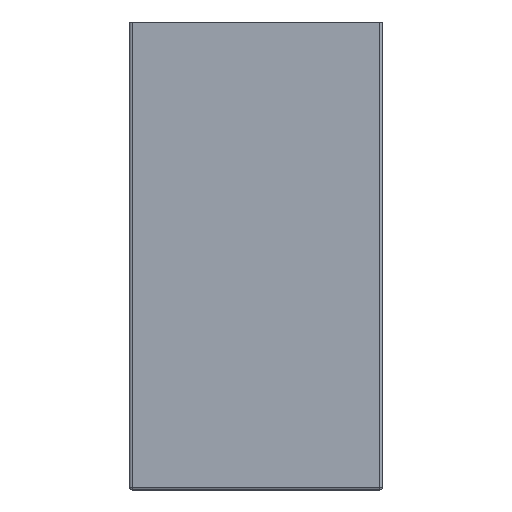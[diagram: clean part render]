
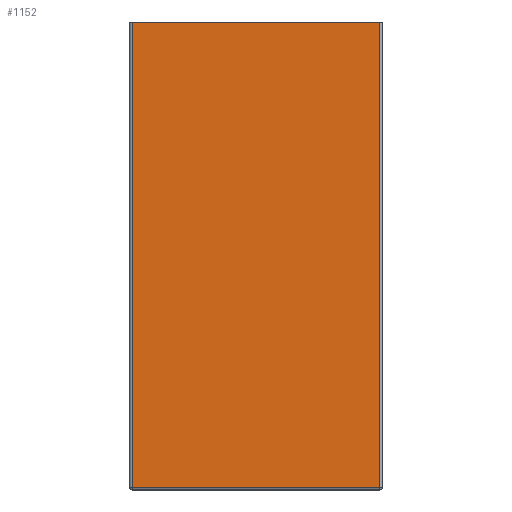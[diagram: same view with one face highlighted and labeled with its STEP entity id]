
A CAD part, left-side view. The second image highlights one B-rep face of the part: STEP entity #1152.
In plain terms, the highlighted planar face has unit normal (-1, 0, 0).
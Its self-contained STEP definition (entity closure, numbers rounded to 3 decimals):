
#1125=AXIS2_PLACEMENT_3D('Plane Axis2P3D',#1122,#1123,#1124) ;
#1025=CARTESIAN_POINT('Line Origine',(-700.,-2.,185.)) ;
#1029=CARTESIAN_POINT('Vertex',(-700.,-2.,2.)) ;
#1031=CARTESIAN_POINT('Vertex',(-700.,-2.,370.)) ;
#1122=CARTESIAN_POINT('Axis2P3D Location',(-700.,0.,0.)) ;
#1127=CARTESIAN_POINT('Line Origine',(-700.,-100.,2.)) ;
#1131=CARTESIAN_POINT('Vertex',(-700.,-198.,2.)) ;
#1134=CARTESIAN_POINT('Line Origine',(-700.,-198.,186.)) ;
#1138=CARTESIAN_POINT('Vertex',(-700.,-198.,370.)) ;
#1141=CARTESIAN_POINT('Line Origine',(-700.,-100.,370.)) ;
#1026=DIRECTION('Vector Direction',(0.,0.,1.)) ;
#1123=DIRECTION('Axis2P3D Direction',(1.,0.,-0.)) ;
#1124=DIRECTION('Axis2P3D XDirection',(0.,0.,1.)) ;
#1128=DIRECTION('Vector Direction',(0.,1.,0.)) ;
#1135=DIRECTION('Vector Direction',(0.,0.,1.)) ;
#1142=DIRECTION('Vector Direction',(0.,-1.,0.)) ;
#1027=VECTOR('Line Direction',#1026,1.) ;
#1129=VECTOR('Line Direction',#1128,1.) ;
#1136=VECTOR('Line Direction',#1135,1.) ;
#1143=VECTOR('Line Direction',#1142,1.) ;
#1147=ORIENTED_EDGE('',*,*,#1133,.T.) ;
#1148=ORIENTED_EDGE('',*,*,#1140,.T.) ;
#1149=ORIENTED_EDGE('',*,*,#1145,.F.) ;
#1150=ORIENTED_EDGE('',*,*,#1033,.F.) ;
#1152=ADVANCED_FACE('STRUTTURA',(#1151),#1126,.F.) ;
#1033=EDGE_CURVE('',#1030,#1032,#1028,.T.) ;
#1133=EDGE_CURVE('',#1030,#1132,#1130,.F.) ;
#1140=EDGE_CURVE('',#1132,#1139,#1137,.T.) ;
#1145=EDGE_CURVE('',#1032,#1139,#1144,.T.) ;
#1146=EDGE_LOOP('',(#1147,#1148,#1149,#1150)) ;
#1151=FACE_OUTER_BOUND('',#1146,.T.) ;
#1028=LINE('Line',#1025,#1027) ;
#1130=LINE('Line',#1127,#1129) ;
#1137=LINE('Line',#1134,#1136) ;
#1144=LINE('Line',#1141,#1143) ;
#1126=PLANE('Plane',#1125) ;
#1030=VERTEX_POINT('',#1029) ;
#1032=VERTEX_POINT('',#1031) ;
#1132=VERTEX_POINT('',#1131) ;
#1139=VERTEX_POINT('',#1138) ;
